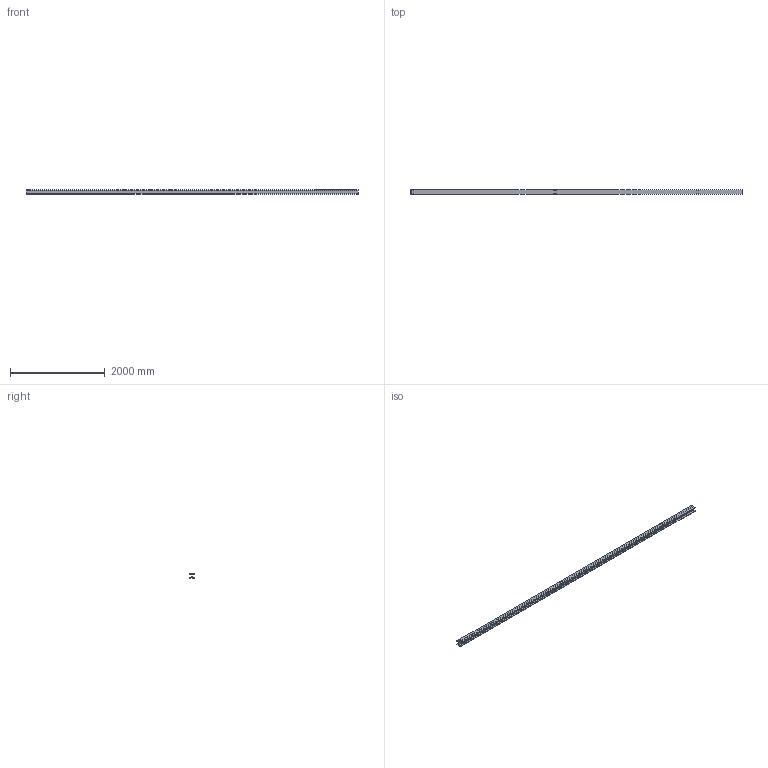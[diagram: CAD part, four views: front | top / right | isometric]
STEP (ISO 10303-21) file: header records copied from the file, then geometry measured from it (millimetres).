
FILE_DESCRIPTION (( 'STEP AP214' ), '1' );
FILE_NAME ('CCJ029-REP.011 - POUTRE C1-C4.STEP', '2024-01-31T08:46:09', ( '' ), ( '' ), 'SwSTEP 2.0', 'SolidWorks 2021', '' );
FILE_SCHEMA (( 'AUTOMOTIVE_DESIGN' ));
Length unit declared in the file: millimetre
Products named in the file (1): CCJ029-REP.011 - POUTRE C1-C4
Bounding box: 6995 x 100 x 100 mm (x, y, z)
Volume: 18190659.3 mm3; surface area: 3976079.3 mm2
Topology: 1 solids, 1 shells, 71 faces, 195 edges, 130 vertices
Faces by surface type: cylinder 32, plane 30, bspline 9
Entity records: 3085 total; most frequent: CARTESIAN_POINT 1182, ORIENTED_EDGE 390, DIRECTION 367, EDGE_CURVE 195, VERTEX_POINT 130, AXIS2_PLACEMENT_3D 127, VECTOR 113, LINE 113
